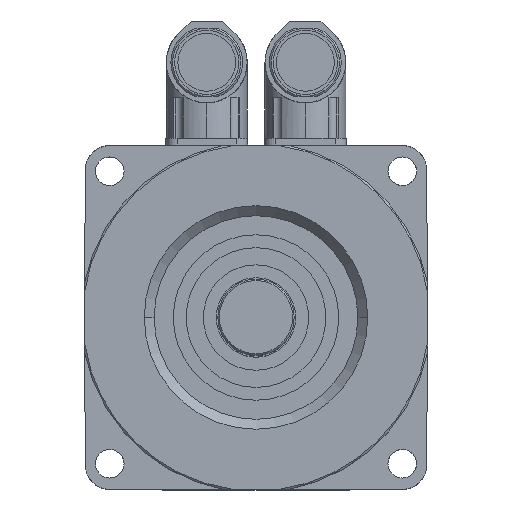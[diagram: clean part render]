
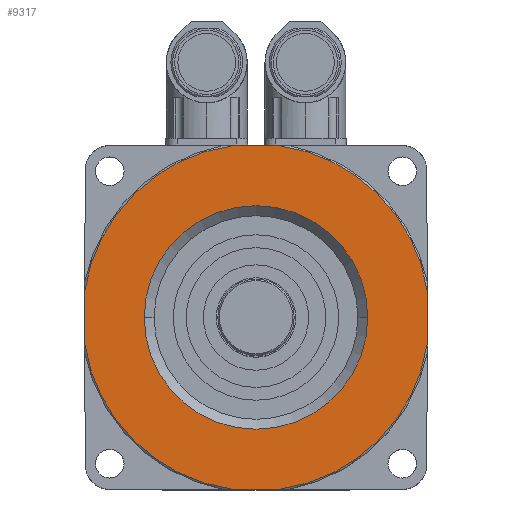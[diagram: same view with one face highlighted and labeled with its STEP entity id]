
A CAD part, top view. The second image highlights one B-rep face of the part: STEP entity #9317.
In plain terms, the highlighted planar face has unit normal (0, 0, 1).
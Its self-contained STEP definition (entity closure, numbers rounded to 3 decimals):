
#1745 = VERTEX_POINT ( 'NONE', #19239 ) ;
#1825 = VERTEX_POINT ( 'NONE', #19440 ) ;
#1827 = EDGE_CURVE ( 'NONE', #1825, #1745, #19439, .T. ) ;
#9289 = ORIENTED_EDGE ( 'NONE', *, *, #9291, .T. ) ;
#9291 = EDGE_CURVE ( 'NONE', #9330, #9392, #27303, .T. ) ;
#9292 = ORIENTED_EDGE ( 'NONE', *, *, #9293, .F. ) ;
#9293 = EDGE_CURVE ( 'NONE', #1745, #1825, #27298, .T. ) ;
#9295 = ORIENTED_EDGE ( 'NONE', *, *, #1827, .F. ) ;
#9299 = EDGE_CURVE ( 'NONE', #9379, #9381, #27318, .T. ) ;
#9300 = VERTEX_POINT ( 'NONE', #27314 ) ;
#9317 = ADVANCED_FACE ( 'NONE', ( #27350, #27349 ), #27348, .T. ) ;
#9318 = ORIENTED_EDGE ( 'NONE', *, *, #9319, .T. ) ;
#9319 = EDGE_CURVE ( 'NONE', #9300, #9320, #27343, .T. ) ;
#9320 = VERTEX_POINT ( 'NONE', #27338 ) ;
#9321 = VERTEX_POINT ( 'NONE', #27337 ) ;
#9325 = ORIENTED_EDGE ( 'NONE', *, *, #9327, .T. ) ;
#9327 = EDGE_CURVE ( 'NONE', #9320, #9321, #27334, .T. ) ;
#9330 = VERTEX_POINT ( 'NONE', #27384 ) ;
#9378 = EDGE_CURVE ( 'NONE', #9477, #9379, #27396, .T. ) ;
#9379 = VERTEX_POINT ( 'NONE', #27452 ) ;
#9380 = ORIENTED_EDGE ( 'NONE', *, *, #9299, .T. ) ;
#9381 = VERTEX_POINT ( 'NONE', #27451 ) ;
#9382 = ORIENTED_EDGE ( 'NONE', *, *, #9383, .T. ) ;
#9383 = EDGE_CURVE ( 'NONE', #9474, #9475, #27450, .T. ) ;
#9391 = ORIENTED_EDGE ( 'NONE', *, *, #9476, .T. ) ;
#9392 = VERTEX_POINT ( 'NONE', #27434 ) ;
#9401 = EDGE_LOOP ( 'NONE', ( #9473, #9382, #9391, #9479, #9380, #9460, #9318, #9325, #9449, #9289 ) ) ;
#9449 = ORIENTED_EDGE ( 'NONE', *, *, #9451, .T. ) ;
#9451 = EDGE_CURVE ( 'NONE', #9321, #9330, #27570, .T. ) ;
#9453 = EDGE_LOOP ( 'NONE', ( #9292, #9295 ) ) ;
#9460 = ORIENTED_EDGE ( 'NONE', *, *, #9462, .T. ) ;
#9462 = EDGE_CURVE ( 'NONE', #9381, #9300, #27563, .T. ) ;
#9464 = EDGE_CURVE ( 'NONE', #9392, #9474, #27559, .T. ) ;
#9473 = ORIENTED_EDGE ( 'NONE', *, *, #9464, .T. ) ;
#9474 = VERTEX_POINT ( 'NONE', #27594 ) ;
#9475 = VERTEX_POINT ( 'NONE', #27593 ) ;
#9476 = EDGE_CURVE ( 'NONE', #9475, #9477, #27592, .T. ) ;
#9477 = VERTEX_POINT ( 'NONE', #27588 ) ;
#9479 = ORIENTED_EDGE ( 'NONE', *, *, #9378, .T. ) ;
#19239 = CARTESIAN_POINT ( 'NONE',  ( 35.13, 0., 1.94 ) ) ;
#19435 = DIRECTION ( 'NONE',  ( 1., 0., 0. ) ) ;
#19436 = DIRECTION ( 'NONE',  ( 0., 0., 1. ) ) ;
#19437 = CARTESIAN_POINT ( 'NONE',  ( 0., 0., 1.94 ) ) ;
#19438 = AXIS2_PLACEMENT_3D ( 'NONE', #19437, #19436, #19435 ) ;
#19439 = CIRCLE ( 'NONE', #19438, 35.13 ) ;
#19440 = CARTESIAN_POINT ( 'NONE',  ( -35.13, 0., 1.94 ) ) ;
#27294 = DIRECTION ( 'NONE',  ( 1., 0., 0. ) ) ;
#27295 = DIRECTION ( 'NONE',  ( 0., 0., 1. ) ) ;
#27296 = CARTESIAN_POINT ( 'NONE',  ( 0., 0., 1.94 ) ) ;
#27297 = AXIS2_PLACEMENT_3D ( 'NONE', #27296, #27295, #27294 ) ;
#27298 = CIRCLE ( 'NONE', #27297, 35.13 ) ;
#27300 = DIRECTION ( 'NONE',  ( 0.009, 1., 0. ) ) ;
#27301 = VECTOR ( 'NONE', #27300, 1000. ) ;
#27302 = CARTESIAN_POINT ( 'NONE',  ( 53.512, -54., 1.94 ) ) ;
#27303 = LINE ( 'NONE', #27302, #27301 ) ;
#27314 = CARTESIAN_POINT ( 'NONE',  ( -53.913, -7.974, 1.94 ) ) ;
#27315 = DIRECTION ( 'NONE',  ( -0.009, -1., 0. ) ) ;
#27316 = VECTOR ( 'NONE', #27315, 1000. ) ;
#27317 = CARTESIAN_POINT ( 'NONE',  ( -53.512, 54., 1.94 ) ) ;
#27318 = LINE ( 'NONE', #27317, #27316 ) ;
#27332 = VECTOR ( 'NONE', #27385, 1000. ) ;
#27333 = CARTESIAN_POINT ( 'NONE',  ( -53.529, -53.983, 1.94 ) ) ;
#27334 = LINE ( 'NONE', #27333, #27332 ) ;
#27337 = CARTESIAN_POINT ( 'NONE',  ( 7.489, -53.983, 1.94 ) ) ;
#27338 = CARTESIAN_POINT ( 'NONE',  ( -7.489, -53.983, 1.94 ) ) ;
#27339 = DIRECTION ( 'NONE',  ( 1., 0., 0. ) ) ;
#27340 = DIRECTION ( 'NONE',  ( 0., 0., 1. ) ) ;
#27341 = CARTESIAN_POINT ( 'NONE',  ( 0., 0., 1.94 ) ) ;
#27342 = AXIS2_PLACEMENT_3D ( 'NONE', #27341, #27340, #27339 ) ;
#27343 = CIRCLE ( 'NONE', #27342, 54.5 ) ;
#27344 = DIRECTION ( 'NONE',  ( 1., 0., 0. ) ) ;
#27345 = DIRECTION ( 'NONE',  ( 0., 0., 1. ) ) ;
#27346 = CARTESIAN_POINT ( 'NONE',  ( 0., 26.182, 1.94 ) ) ;
#27347 = AXIS2_PLACEMENT_3D ( 'NONE', #27346, #27345, #27344 ) ;
#27348 = PLANE ( 'NONE',  #27347 ) ;
#27349 = FACE_BOUND ( 'NONE', #9453, .T. ) ;
#27350 = FACE_OUTER_BOUND ( 'NONE', #9401, .T. ) ;
#27384 = CARTESIAN_POINT ( 'NONE',  ( 53.913, -7.974, 1.94 ) ) ;
#27385 = DIRECTION ( 'NONE',  ( 1., 0., 0. ) ) ;
#27392 = DIRECTION ( 'NONE',  ( 1., 0., 0. ) ) ;
#27393 = DIRECTION ( 'NONE',  ( 0., 0., 1. ) ) ;
#27394 = CARTESIAN_POINT ( 'NONE',  ( 0., 0., 1.94 ) ) ;
#27395 = AXIS2_PLACEMENT_3D ( 'NONE', #27394, #27393, #27392 ) ;
#27396 = CIRCLE ( 'NONE', #27395, 54.5 ) ;
#27434 = CARTESIAN_POINT ( 'NONE',  ( 53.983, 0., 1.94 ) ) ;
#27446 = DIRECTION ( 'NONE',  ( 1., 0., 0. ) ) ;
#27447 = DIRECTION ( 'NONE',  ( 0., 0., 1. ) ) ;
#27448 = CARTESIAN_POINT ( 'NONE',  ( 0., 0., 1.94 ) ) ;
#27449 = AXIS2_PLACEMENT_3D ( 'NONE', #27448, #27447, #27446 ) ;
#27450 = CIRCLE ( 'NONE', #27449, 54.5 ) ;
#27451 = CARTESIAN_POINT ( 'NONE',  ( -53.983, 0., 1.94 ) ) ;
#27452 = CARTESIAN_POINT ( 'NONE',  ( -53.913, 7.974, 1.94 ) ) ;
#27556 = DIRECTION ( 'NONE',  ( -0.009, 1., 0. ) ) ;
#27557 = VECTOR ( 'NONE', #27556, 1000. ) ;
#27558 = CARTESIAN_POINT ( 'NONE',  ( 53.983, 0., 1.94 ) ) ;
#27559 = LINE ( 'NONE', #27558, #27557 ) ;
#27560 = DIRECTION ( 'NONE',  ( 0.009, -1., 0. ) ) ;
#27561 = VECTOR ( 'NONE', #27560, 1000. ) ;
#27562 = CARTESIAN_POINT ( 'NONE',  ( -53.983, 0., 1.94 ) ) ;
#27563 = LINE ( 'NONE', #27562, #27561 ) ;
#27567 = DIRECTION ( 'NONE',  ( 1., 0., 0. ) ) ;
#27568 = DIRECTION ( 'NONE',  ( 0., 0., 1. ) ) ;
#27569 = AXIS2_PLACEMENT_3D ( 'NONE', #27576, #27568, #27567 ) ;
#27570 = CIRCLE ( 'NONE', #27569, 54.5 ) ;
#27576 = CARTESIAN_POINT ( 'NONE',  ( 0., 0., 1.94 ) ) ;
#27588 = CARTESIAN_POINT ( 'NONE',  ( -7.489, 53.983, 1.94 ) ) ;
#27589 = DIRECTION ( 'NONE',  ( -1., 0., 0. ) ) ;
#27590 = VECTOR ( 'NONE', #27589, 1000. ) ;
#27591 = CARTESIAN_POINT ( 'NONE',  ( 53.529, 53.983, 1.94 ) ) ;
#27592 = LINE ( 'NONE', #27591, #27590 ) ;
#27593 = CARTESIAN_POINT ( 'NONE',  ( 7.489, 53.983, 1.94 ) ) ;
#27594 = CARTESIAN_POINT ( 'NONE',  ( 53.913, 7.974, 1.94 ) ) ;
